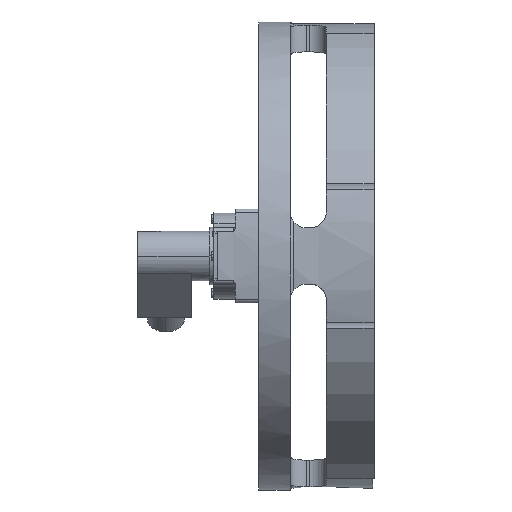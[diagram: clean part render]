
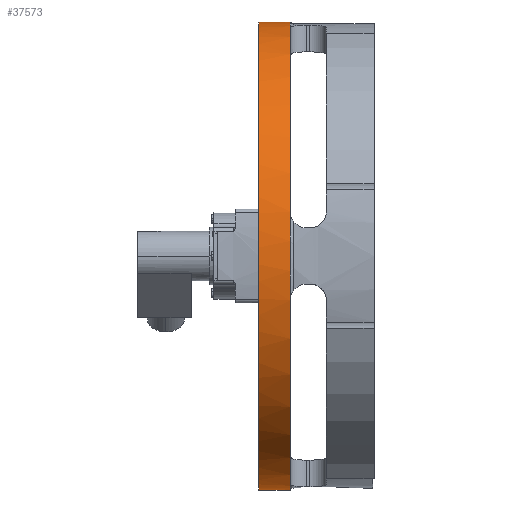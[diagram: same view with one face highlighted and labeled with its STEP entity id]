
A CAD part, left-side view. The second image highlights one B-rep face of the part: STEP entity #37573.
In plain terms, the highlighted cylindrical face has radius 180.34 mm (diameter 360.68 mm), a partial arc.
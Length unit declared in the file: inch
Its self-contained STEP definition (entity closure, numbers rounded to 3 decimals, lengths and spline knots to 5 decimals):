
#346 = DIRECTION ( 'NONE',  ( 0., 1., 0. ) ) ;
#653 = LINE ( 'NONE', #22546, #39045 ) ;
#842 = DIRECTION ( 'NONE',  ( 0., 0., 1. ) ) ;
#1021 = CARTESIAN_POINT ( 'NONE',  ( 0., -0.95, 0. ) ) ;
#1232 = EDGE_CURVE ( 'NONE', #5926, #4600, #10961, .T. ) ;
#3770 = CARTESIAN_POINT ( 'NONE',  ( 0., 0., 7.1 ) ) ;
#3810 = DIRECTION ( 'NONE',  ( 0., 0., 1. ) ) ;
#3844 = VERTEX_POINT ( 'NONE', #6575 ) ;
#4428 = AXIS2_PLACEMENT_3D ( 'NONE', #21183, #15211, #24383 ) ;
#4600 = VERTEX_POINT ( 'NONE', #10926 ) ;
#5647 = VECTOR ( 'NONE', #25980, 39.37008 ) ;
#5926 = VERTEX_POINT ( 'NONE', #32645 ) ;
#6274 = AXIS2_PLACEMENT_3D ( 'NONE', #9515, #34114, #9891 ) ;
#6575 = CARTESIAN_POINT ( 'NONE',  ( -1.35, -0.95, 6.97047 ) ) ;
#7014 = CARTESIAN_POINT ( 'NONE',  ( 0., -0.95, 7.1 ) ) ;
#7259 = ORIENTED_EDGE ( 'NONE', *, *, #9390, .F. ) ;
#7494 = EDGE_CURVE ( 'NONE', #31604, #35465, #17654, .T. ) ;
#8511 = DIRECTION ( 'NONE',  ( 0., 1., 0. ) ) ;
#8724 = EDGE_LOOP ( 'NONE', ( #7259, #36760, #39144, #17009, #32792, #11310, #26683, #12249 ) ) ;
#9390 = EDGE_CURVE ( 'NONE', #30307, #35465, #14629, .T. ) ;
#9515 = CARTESIAN_POINT ( 'NONE',  ( 0., -0.95, 0. ) ) ;
#9891 = DIRECTION ( 'NONE',  ( 0., 0., 1. ) ) ;
#10884 = EDGE_CURVE ( 'NONE', #3844, #29498, #30647, .T. ) ;
#10926 = CARTESIAN_POINT ( 'NONE',  ( -6.97047, -0.95, -1.35 ) ) ;
#10961 = CIRCLE ( 'NONE', #6274, 7.1 ) ;
#11118 = DIRECTION ( 'NONE',  ( 0., 0., 1. ) ) ;
#11310 = ORIENTED_EDGE ( 'NONE', *, *, #10884, .T. ) ;
#12249 = ORIENTED_EDGE ( 'NONE', *, *, #7494, .T. ) ;
#12760 = DIRECTION ( 'NONE',  ( 0., 1., 0. ) ) ;
#14074 = CARTESIAN_POINT ( 'NONE',  ( 0., 0., -7.1 ) ) ;
#14418 = CARTESIAN_POINT ( 'NONE',  ( 0., 0., 0. ) ) ;
#14629 = LINE ( 'NONE', #14074, #5647 ) ;
#15211 = DIRECTION ( 'NONE',  ( 0., 1., 0. ) ) ;
#17009 = ORIENTED_EDGE ( 'NONE', *, *, #17221, .T. ) ;
#17221 = EDGE_CURVE ( 'NONE', #4600, #28026, #30273, .T. ) ;
#17654 = CIRCLE ( 'NONE', #23168, 7.1 ) ;
#19868 = AXIS2_PLACEMENT_3D ( 'NONE', #1021, #28021, #3810 ) ;
#20158 = CIRCLE ( 'NONE', #19868, 7.1 ) ;
#21183 = CARTESIAN_POINT ( 'NONE',  ( 0., 0., 0. ) ) ;
#22546 = CARTESIAN_POINT ( 'NONE',  ( 0., 0., 7.1 ) ) ;
#22921 = EDGE_CURVE ( 'NONE', #28026, #3844, #20158, .T. ) ;
#23034 = DIRECTION ( 'NONE',  ( 0., -1., 0. ) ) ;
#23168 = AXIS2_PLACEMENT_3D ( 'NONE', #14418, #23034, #11118 ) ;
#23579 = AXIS2_PLACEMENT_3D ( 'NONE', #34197, #12760, #842 ) ;
#24383 = DIRECTION ( 'NONE',  ( 0., 0., 1. ) ) ;
#24559 = CARTESIAN_POINT ( 'NONE',  ( 0., -0.95, 0. ) ) ;
#25980 = DIRECTION ( 'NONE',  ( 0., 1., 0. ) ) ;
#26635 = CARTESIAN_POINT ( 'NONE',  ( 0., -0.95, 0. ) ) ;
#26683 = ORIENTED_EDGE ( 'NONE', *, *, #37182, .T. ) ;
#27463 = AXIS2_PLACEMENT_3D ( 'NONE', #26635, #8511, #29705 ) ;
#27615 = CYLINDRICAL_SURFACE ( 'NONE', #4428, 7.1 ) ;
#27721 = EDGE_CURVE ( 'NONE', #30307, #5926, #28146, .T. ) ;
#28021 = DIRECTION ( 'NONE',  ( 0., 1., 0. ) ) ;
#28026 = VERTEX_POINT ( 'NONE', #37886 ) ;
#28146 = CIRCLE ( 'NONE', #27463, 7.1 ) ;
#29498 = VERTEX_POINT ( 'NONE', #7014 ) ;
#29705 = DIRECTION ( 'NONE',  ( 0., 0., 1. ) ) ;
#30273 = CIRCLE ( 'NONE', #31050, 7.1 ) ;
#30307 = VERTEX_POINT ( 'NONE', #35235 ) ;
#30647 = CIRCLE ( 'NONE', #23579, 7.1 ) ;
#31050 = AXIS2_PLACEMENT_3D ( 'NONE', #24559, #346, #31070 ) ;
#31070 = DIRECTION ( 'NONE',  ( 0., 0., 1. ) ) ;
#31604 = VERTEX_POINT ( 'NONE', #3770 ) ;
#32645 = CARTESIAN_POINT ( 'NONE',  ( -1.35, -0.95, -6.97047 ) ) ;
#32792 = ORIENTED_EDGE ( 'NONE', *, *, #22921, .T. ) ;
#33774 = FACE_OUTER_BOUND ( 'NONE', #8724, .T. ) ;
#34114 = DIRECTION ( 'NONE',  ( 0., 1., 0. ) ) ;
#34197 = CARTESIAN_POINT ( 'NONE',  ( 0., -0.95, 0. ) ) ;
#35235 = CARTESIAN_POINT ( 'NONE',  ( 0., -0.95, -7.1 ) ) ;
#35465 = VERTEX_POINT ( 'NONE', #36215 ) ;
#36215 = CARTESIAN_POINT ( 'NONE',  ( 0., 0., -7.1 ) ) ;
#36760 = ORIENTED_EDGE ( 'NONE', *, *, #27721, .T. ) ;
#37182 = EDGE_CURVE ( 'NONE', #29498, #31604, #653, .T. ) ;
#37573 = ADVANCED_FACE ( 'NONE', ( #33774 ), #27615, .T. ) ;
#37673 = DIRECTION ( 'NONE',  ( 0., 1., 0. ) ) ;
#37886 = CARTESIAN_POINT ( 'NONE',  ( -6.97047, -0.95, 1.35 ) ) ;
#39045 = VECTOR ( 'NONE', #37673, 39.37008 ) ;
#39144 = ORIENTED_EDGE ( 'NONE', *, *, #1232, .T. ) ;
